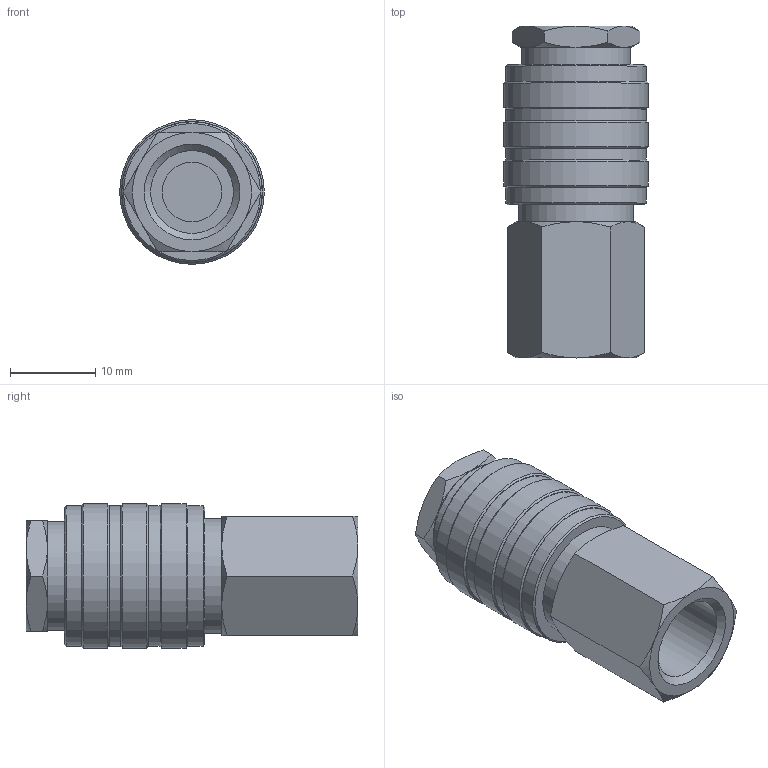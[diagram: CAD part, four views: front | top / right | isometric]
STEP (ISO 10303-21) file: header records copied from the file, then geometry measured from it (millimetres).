
FILE_DESCRIPTION(/* description */ (''),/* implementation_level */ '2;1');
FILE_NAME(/* name */ 'S:\_Tecnico\ArchivioUT\DISEGNI\DISEGNI 3D per ingombri\GM\GM200018.stp',/* time_stamp */ '2018-11-15T16:12:40+01:00',/* author */ ('UfficioTecnico'),/* organization */ (''),/* preprocessor_version */ 'ST-DEVELOPER v16.1',/* originating_system */ 'Autodesk Inventor 2016',/* authorisation */ '');
FILE_SCHEMA (('AUTOMOTIVE_DESIGN { 1 0 10303 214 3 1 1 }'));
Length unit declared in the file: millimetre
Products named in the file (1): GM200018
Bounding box: 17 x 39 x 17 mm (x, y, z)
Volume: 5605 mm3; surface area: 3241.3 mm2
Topology: 1 solids, 1 shells, 75 faces, 143 edges, 84 vertices
Faces by surface type: cone 34, plane 28, cylinder 13
Full cylindrical faces by diameter (mm): 5 x1, 7 x1, 9 x1, 9.728 x1, 12.8 x1, 13.5 x1, 16.5 x4, 17 x3
Entity records: 1726 total; most frequent: CARTESIAN_POINT 376, DIRECTION 284, ORIENTED_EDGE 240, AXIS2_PLACEMENT_3D 136, EDGE_CURVE 120, EDGE_LOOP 112, VERTEX_POINT 84, FACE_OUTER_BOUND 75
